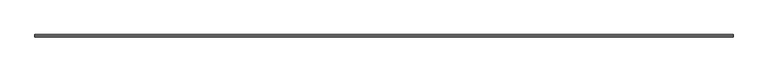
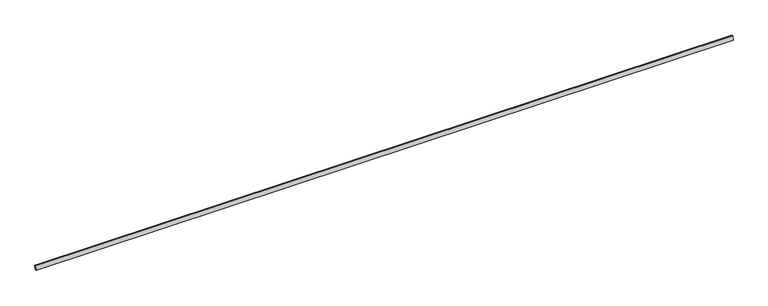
"""IFC4 building model written with IfcOpenShell, lengths in millimetres: proxy geometry, Modelos genéricos 18 : Modelos genéricos 18."""

from ifc_helpers import new_model, si_unit, frame, origin, place, context, project, spatial, polyline, outline, extrude, source, transform, mapped, element, save


def generic_models_648e9327(model_context):
    return source(origin(), model_context, "Body", "SweptSolid", [
        extrude(outline(polyline([(0.0, -27228.7383178), (0.0, 0.0), (60.0, 0.0), (60.0, -27228.7383178), (0.0, -27228.7383178)])), frame((-13461.5527533, 4463.6238165, 3600.1445647), z_axis=(0.0, 0.2419218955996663, 0.9702957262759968), x_axis=(0.0, 0.9702957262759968, -0.2419218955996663)), (0.0, 0.0, 1.0), 160.0),
    ])


if __name__ == "__main__":
    model = new_model("IFC4")
    model_context = context("Model", 3, world=origin())
    ifc_project = project(units=[si_unit("LENGTHUNIT", "METRE", prefix="MILLI")], contexts=[model_context])
    site = spatial("IfcSite", under=ifc_project)
    building = spatial("IfcBuilding", under=site)
    placement = place(None, origin())
    generic_models_shape = generic_models_648e9327(model_context)
    element("IfcBuildingElementProxy", 1, Name="Modelos genéricos 18 : Modelos genéricos 18", ObjectType="Modelos genéricos 18 : Modelos genéricos 18", at=placement, inside=building, context=model_context, shape_type="MappedRepresentation", body=[
        mapped(generic_models_shape, transform((0.0, 0.0, 0.0), x_axis=(1.0, 0.0, 0.0), y_axis=(0.0, 1.0, 0.0), z_axis=(0.0, 0.0, 1.0))),
    ])
    save(model, "model.ifc")
